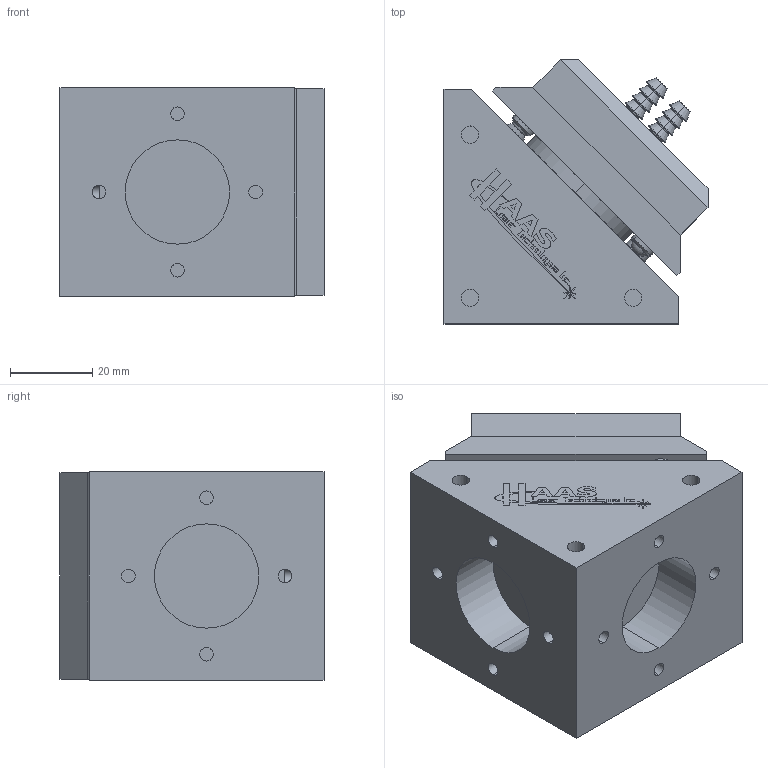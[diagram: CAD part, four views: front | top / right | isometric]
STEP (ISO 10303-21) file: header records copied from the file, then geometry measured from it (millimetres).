
FILE_DESCRIPTION (( 'STEP AP214' ), '1' );
FILE_NAME ('BBK-19-XX-XXX-WN.STEP', '2016-08-16T14:15:37', ( '' ), ( '' ), 'SwSTEP 2.0', 'SolidWorks 2016', '' );
FILE_SCHEMA (( 'AUTOMOTIVE_DESIGN' ));
Length unit declared in the file: inch
Products named in the file (1): BBK-19-XX-XXX-WN
Bounding box: 64.27 x 64.27 x 50.8 mm (x, y, z)
Volume: 143925.8 mm3; surface area: 26960.9 mm2
Topology: 1 solids, 1 shells, 264 faces, 1003 edges, 844 vertices
Faces by surface type: plane 131, torus 52, cylinder 47, cone 28, sphere 6
Entity records: 11569 total; most frequent: CARTESIAN_POINT 2307, ORIENTED_EDGE 2002, DIRECTION 1860, EDGE_CURVE 1001, VERTEX_POINT 844, AXIS2_PLACEMENT_3D 627, VECTOR 606, LINE 606
